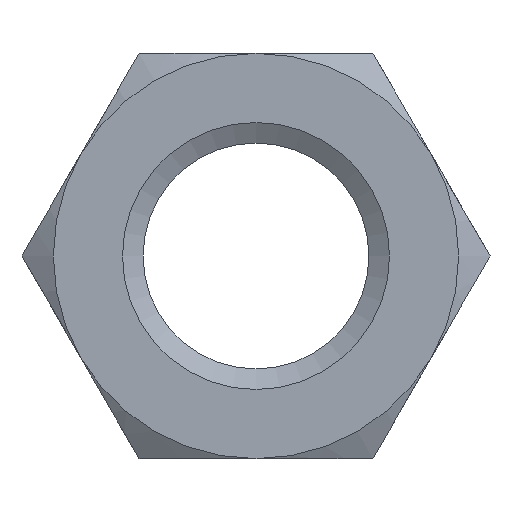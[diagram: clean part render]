
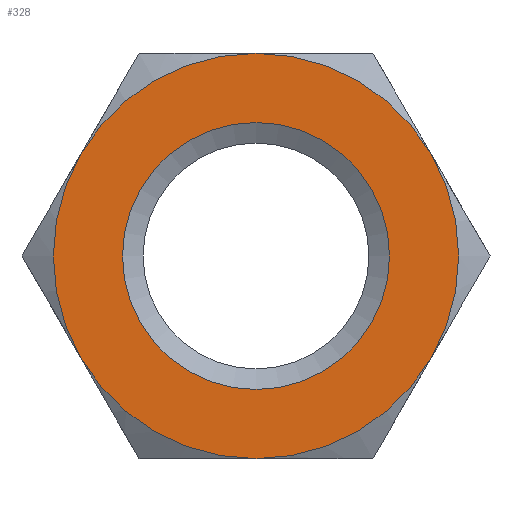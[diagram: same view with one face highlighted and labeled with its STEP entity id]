
A CAD part, left-side view. The second image highlights one B-rep face of the part: STEP entity #328.
In plain terms, the highlighted planar face has unit normal (-1, 0, 0).
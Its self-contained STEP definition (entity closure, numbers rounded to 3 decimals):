
#39=FACE_BOUND('',#76,.T.);
#41=PLANE('',#378);
#52=FACE_OUTER_BOUND('',#75,.T.);
#75=EDGE_LOOP('',(#221,#222,#223,#224,#225,#226));
#76=EDGE_LOOP('',(#227));
#116=CIRCLE('',#373,5.271);
#120=CIRCLE('',#379,8.);
#121=CIRCLE('',#380,8.);
#122=CIRCLE('',#381,8.);
#123=CIRCLE('',#382,8.);
#124=CIRCLE('',#383,8.);
#125=CIRCLE('',#384,8.);
#133=VERTEX_POINT('',#505);
#137=VERTEX_POINT('',#517);
#138=VERTEX_POINT('',#518);
#139=VERTEX_POINT('',#520);
#140=VERTEX_POINT('',#522);
#141=VERTEX_POINT('',#524);
#142=VERTEX_POINT('',#526);
#162=EDGE_CURVE('',#133,#133,#116,.T.);
#168=EDGE_CURVE('',#137,#138,#120,.T.);
#169=EDGE_CURVE('',#138,#139,#121,.T.);
#170=EDGE_CURVE('',#139,#140,#122,.T.);
#171=EDGE_CURVE('',#140,#141,#123,.T.);
#172=EDGE_CURVE('',#141,#142,#124,.T.);
#173=EDGE_CURVE('',#142,#137,#125,.T.);
#221=ORIENTED_EDGE('',*,*,#168,.T.);
#222=ORIENTED_EDGE('',*,*,#169,.T.);
#223=ORIENTED_EDGE('',*,*,#170,.T.);
#224=ORIENTED_EDGE('',*,*,#171,.T.);
#225=ORIENTED_EDGE('',*,*,#172,.T.);
#226=ORIENTED_EDGE('',*,*,#173,.T.);
#227=ORIENTED_EDGE('',*,*,#162,.F.);
#328=ADVANCED_FACE('',(#52,#39),#41,.F.);
#373=AXIS2_PLACEMENT_3D('',#506,#416,#417);
#378=AXIS2_PLACEMENT_3D('',#516,#428,#429);
#379=AXIS2_PLACEMENT_3D('',#519,#430,#431);
#380=AXIS2_PLACEMENT_3D('',#521,#432,#433);
#381=AXIS2_PLACEMENT_3D('',#523,#434,#435);
#382=AXIS2_PLACEMENT_3D('',#525,#436,#437);
#383=AXIS2_PLACEMENT_3D('',#527,#438,#439);
#384=AXIS2_PLACEMENT_3D('',#528,#440,#441);
#416=DIRECTION('center_axis',(-1.,0.,0.));
#417=DIRECTION('ref_axis',(0.,0.,-1.));
#428=DIRECTION('center_axis',(1.,0.,0.));
#429=DIRECTION('ref_axis',(0.,0.,-1.));
#430=DIRECTION('center_axis',(-1.,0.,0.));
#431=DIRECTION('ref_axis',(0.,1.,0.));
#432=DIRECTION('center_axis',(-1.,0.,0.));
#433=DIRECTION('ref_axis',(0.,1.,0.));
#434=DIRECTION('center_axis',(-1.,0.,0.));
#435=DIRECTION('ref_axis',(0.,1.,0.));
#436=DIRECTION('center_axis',(-1.,0.,0.));
#437=DIRECTION('ref_axis',(0.,1.,0.));
#438=DIRECTION('center_axis',(-1.,0.,0.));
#439=DIRECTION('ref_axis',(0.,1.,0.));
#440=DIRECTION('center_axis',(-1.,0.,0.));
#441=DIRECTION('ref_axis',(0.,1.,0.));
#505=CARTESIAN_POINT('',(0.,0.,5.271));
#506=CARTESIAN_POINT('Origin',(0.,0.,0.));
#516=CARTESIAN_POINT('Origin',(0.,0.,0.));
#517=CARTESIAN_POINT('',(0.,-6.928,-4.));
#518=CARTESIAN_POINT('',(0.,-6.928,4.));
#519=CARTESIAN_POINT('Origin',(0.,0.,0.));
#520=CARTESIAN_POINT('',(0.,0.,8.));
#521=CARTESIAN_POINT('Origin',(0.,0.,0.));
#522=CARTESIAN_POINT('',(0.,6.928,4.));
#523=CARTESIAN_POINT('Origin',(0.,0.,0.));
#524=CARTESIAN_POINT('',(0.,6.928,-4.));
#525=CARTESIAN_POINT('Origin',(0.,0.,0.));
#526=CARTESIAN_POINT('',(0.,0.,-8.));
#527=CARTESIAN_POINT('Origin',(0.,0.,0.));
#528=CARTESIAN_POINT('Origin',(0.,0.,0.));
